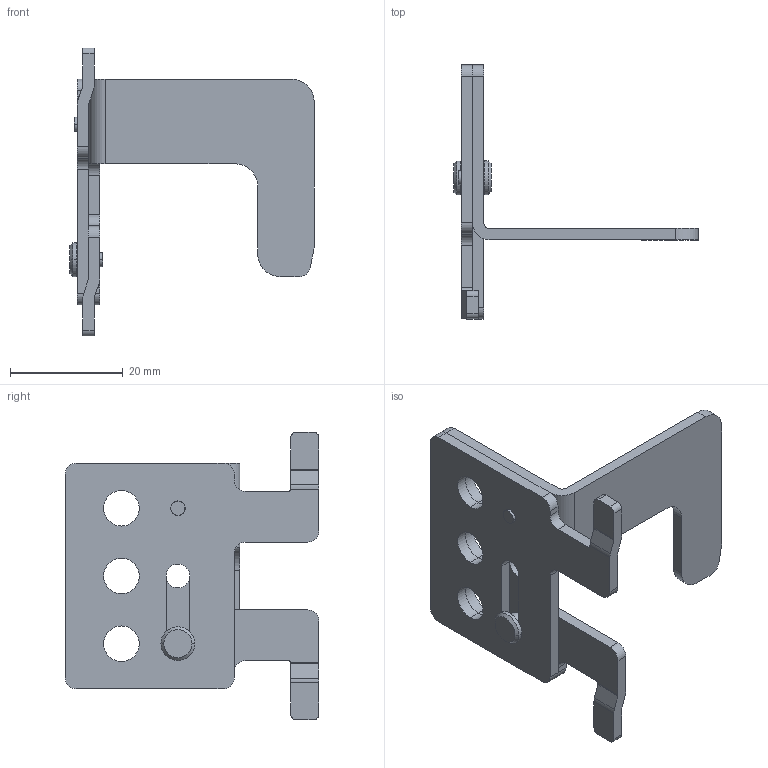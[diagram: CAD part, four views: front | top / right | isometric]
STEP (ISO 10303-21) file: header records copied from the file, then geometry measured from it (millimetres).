
FILE_DESCRIPTION((''),'2;1');
FILE_NAME('U8_PLD_ASSY_ASM','2018-06-04T',('HHI'),(''),'PRO/ENGINEER BY PARAMETRIC TECHNOLOGY CORPORATION, 2012453','PRO/ENGINEER BY PARAMETRIC TECHNOLOGY CORPORATION, 2012453','');
FILE_SCHEMA(('CONFIG_CONTROL_DESIGN'));
Length unit declared in the file: millimetre
Products named in the file (5): U8_PLD_ASSY_SKEL; U8_PLD_HANDLE_HOLD_PLATE; U8_PLD_HANDLE_LOCK_PLATE; U8_HANDLE_LOCK_RIVETING_PIN; U8_PLD_ASSY_ASM
Assembly tree (5 placements, depth 2):
  U8_PLD_ASSY_ASM
    U8_PLD_ASSY_SKEL
    U8_PLD_HANDLE_HOLD_PLATE
    U8_PLD_HANDLE_LOCK_PLATE
    U8_HANDLE_LOCK_RIVETING_PIN  x2
Bounding box: 43.3 x 45 x 51 mm (x, y, z)
Volume: 6468.8 mm3; surface area: 7961.7 mm2
Topology: 4 solids, 4 shells, 122 faces, 324 edges, 214 vertices
Faces by surface type: cylinder 67, plane 51, cone 4
Entity records: 3723 total; most frequent: DIRECTION 662, CARTESIAN_POINT 636, ORIENTED_EDGE 604, EDGE_CURVE 302, AXIS2_PLACEMENT_3D 244, VERTEX_POINT 200, VECTOR 174, LINE 174
